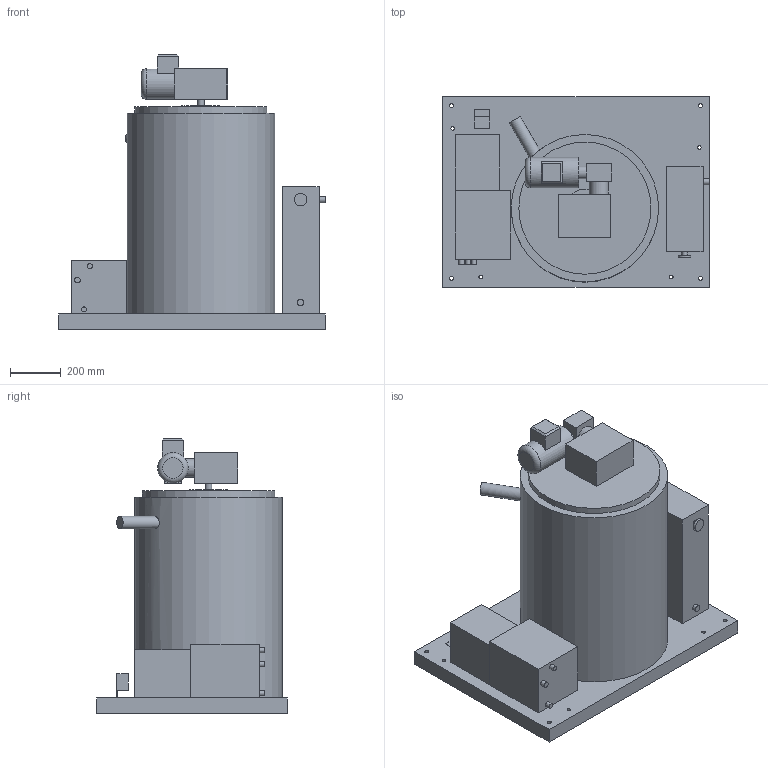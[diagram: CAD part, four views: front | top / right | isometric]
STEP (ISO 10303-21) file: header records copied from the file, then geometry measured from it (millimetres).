
FILE_DESCRIPTION(/* description */ ('Unknown'),/* implementation_level */ '2;1');
FILE_NAME(/* name */ 'CAD-067',/* time_stamp */ '2020-04-07T12:07:38+02:00',/* author */ ('Unknown'),/* organization */ ('Unknown'),/* preprocessor_version */ 'ST-DEVELOPER v16.7',/* originating_system */ 'Solid Edge',/* authorisation */ 'Unknown');
FILE_SCHEMA (('CONFIG_CONTROL_DESIGN'));
Length unit declared in the file: millimetre
Products named in the file (1): scala_2000_split
Bounding box: 1050 x 750 x 1080 mm (x, y, z)
Volume: 303096202.3 mm3; surface area: 4618062.8 mm2
Topology: 1 solids, 1 shells, 90 faces, 208 edges, 143 vertices
Faces by surface type: plane 65, cylinder 24, torus 1
Full cylindrical faces by diameter (mm): 14 x4, 16 x4, 20 x3, 22 x1, 25 x3, 50 x3, 75 x1, 120 x1, 150 x1, 480 x1, 520 x1, 580 x1
Entity records: 3009 total; most frequent: CARTESIAN_POINT 425, DIRECTION 396, ORIENTED_EDGE 330, EDGE_CURVE 165, EDGE_LOOP 154, FACE_BOUND 154, AXIS2_PLACEMENT_3D 141, VERTEX_POINT 125
